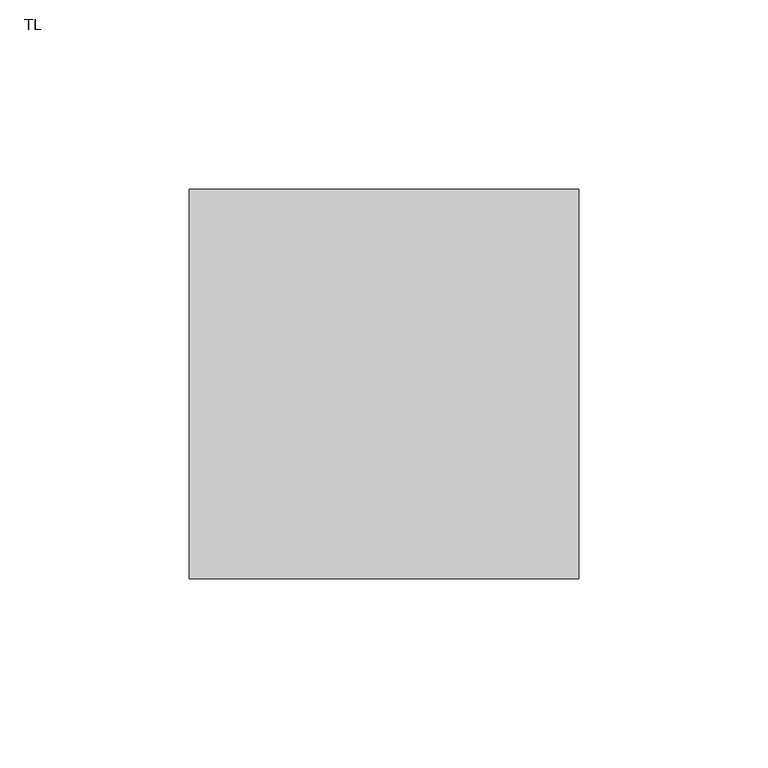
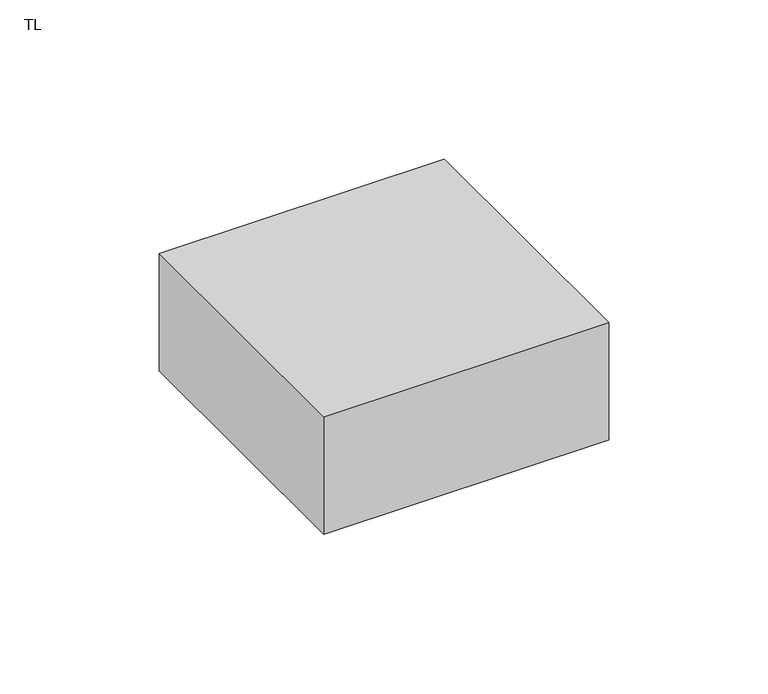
"""IFC4 building model written with IfcOpenShell, lengths in millimetres: cable carrier fitting geometry, PavcoWavin_ConduitFittings_CajaDoble_Codo : TL."""

from ifc_helpers import new_model, si_unit, frame, origin, place, context, project, spatial, polyline, outline, extrude, source, transform, mapped, element, save


def tl_4cd5a705(model_context):
    return source(origin(), model_context, "Body", "SweptSolid", [
        extrude(outline(polyline([(51.55, 69.05), (51.55, -34.05), (-51.55, -34.05), (-51.55, 69.05), (51.55, 69.05)])), frame((0.0, 0.0, -22.5), z_axis=(0.0, 0.0, 1.0), x_axis=(1.0, 0.0, 0.0)), (0.0, 0.0, 1.0), 45.0),
    ])


if __name__ == "__main__":
    model = new_model("IFC4")
    model_context = context("Model", 3, world=origin())
    ifc_project = project(units=[si_unit("LENGTHUNIT", "METRE", prefix="MILLI")], contexts=[model_context])
    site = spatial("IfcSite", under=ifc_project)
    building = spatial("IfcBuilding", under=site)
    placement = place(None, origin())
    tl_shape = tl_4cd5a705(model_context)
    element("IfcCableCarrierFitting", 1, ObjectType="PavcoWavin_ConduitFittings_CajaDoble_Codo : TL", at=placement, inside=building, context=model_context, shape_type="MappedRepresentation", body=[
        mapped(tl_shape, transform((0.0, 0.0, 0.0), x_axis=(1.0, 0.0, 0.0), y_axis=(0.0, 1.0, 0.0), z_axis=(0.0, 0.0, 1.0))),
    ])
    save(model, "model.ifc")
